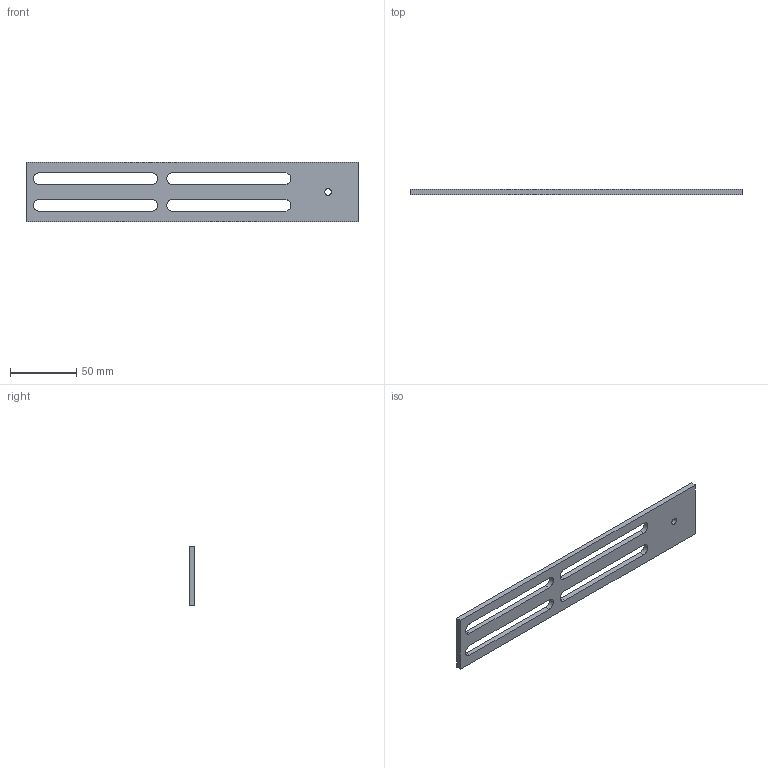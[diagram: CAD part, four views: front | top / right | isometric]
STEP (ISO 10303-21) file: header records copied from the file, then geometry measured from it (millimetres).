
FILE_DESCRIPTION (( 'STEP AP203' ), '1' );
FILE_NAME ('N510240_1_Kabinenbefestigung.STEP', '2019-07-12T09:19:37', ( '' ), ( '' ), 'SwSTEP 2.0', 'SolidWorks 2017', '' );
FILE_SCHEMA (( 'CONFIG_CONTROL_DESIGN' ));
Length unit declared in the file: millimetre
Products named in the file (1): N510240_1_Kabinenbefestigung
Bounding box: 250 x 4 x 45 mm (x, y, z)
Volume: 31735.6 mm3; surface area: 21447 mm2
Topology: 1 solids, 1 shells, 24 faces, 66 edges, 44 vertices
Faces by surface type: plane 14, cylinder 10
Entity records: 867 total; most frequent: DIRECTION 136, CARTESIAN_POINT 135, ORIENTED_EDGE 132, EDGE_CURVE 66, LINE 46, VECTOR 46, AXIS2_PLACEMENT_3D 45, VERTEX_POINT 44
